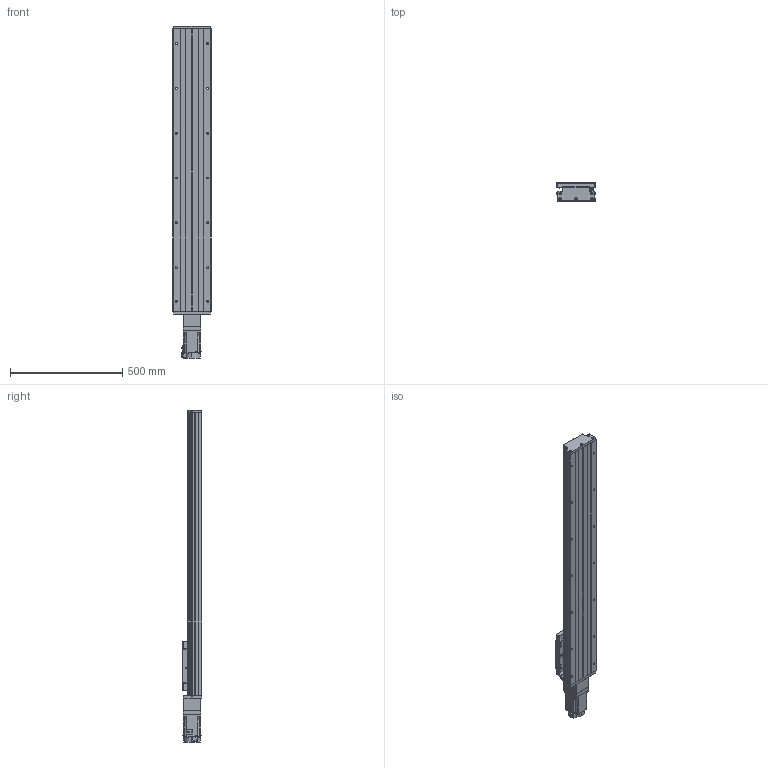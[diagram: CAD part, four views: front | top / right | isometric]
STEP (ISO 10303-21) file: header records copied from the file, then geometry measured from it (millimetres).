
FILE_DESCRIPTION (( 'STEP AP203' ), '1' );
FILE_NAME ('GTH17-1000-BC-M75-C4.step', '2023-06-30T11:19:40', ( '微软用户' ), ( '微软中国' ), 'SwSTEP 2.0', 'SolidWorks 2020', '' );
FILE_SCHEMA (( 'CONFIG_CONTROL_DESIGN' ));
Length unit declared in the file: millimetre
Products named in the file (20): す晦芛蹟隊 M3℅5; GTH17-001_1000; CTHA60-016; GBT 70.3-M3℅8; GTH17-002_GTH17-002; GBT 70.1-M3℅5; GTH17-006-2_M75; GTH17-004; GBT77-2000 M3×3; GTH17-013; GTH17-005; GBT 70.1-M6¡Á20_M6¡Á20; GTH17-027-1; GB1155-6X6; GTH17-031; HG-KN73J-S100; CTHA60-017; GBT 70.2-M3¡Á5_M3¡Á6; GTH17-1000-BC-M75-C4; EE_SX911P_R
Assembly tree (57 placements, depth 2):
  GTH17-1000-BC-M75-C4
    GTH17-001_1000
    GTH17-002_GTH17-002
    GTH17-004
    GTH17-005
    GB1155-6X6  x2
    CTHA60-017  x3
    EE_SX911P_R  x3
    CTHA60-016  x2
    GBT 70.1-M3℅5  x6
    GBT77-2000 M3×3  x6
    GBT 70.1-M6¡Á20_M6¡Á20  x10
    GTH17-031
    GBT 70.2-M3¡Á5_M3¡Á6  x8
    す晦芛蹟隊 M3℅5  x6
    GBT 70.3-M3℅8  x2
    GTH17-006-2_M75
    GTH17-013
    GTH17-027-1
    HG-KN73J-S100
Bounding box: 171 x 87 x 1481.2 mm (x, y, z)
Volume: 11133026.5 mm3; surface area: 1402886.9 mm2
Topology: 60 solids, 60 shells, 2424 faces, 5797 edges, 3595 vertices
Faces by surface type: plane 1307, cylinder 670, cone 287, torus 120, sphere 20, bspline 20
Entity records: 45453 total; most frequent: CARTESIAN_POINT 10477, DIRECTION 6597, ORIENTED_EDGE 6510, EDGE_CURVE 3255, AXIS2_PLACEMENT_3D 2249, LINE 2099, VECTOR 2099, VERTEX_POINT 2063
